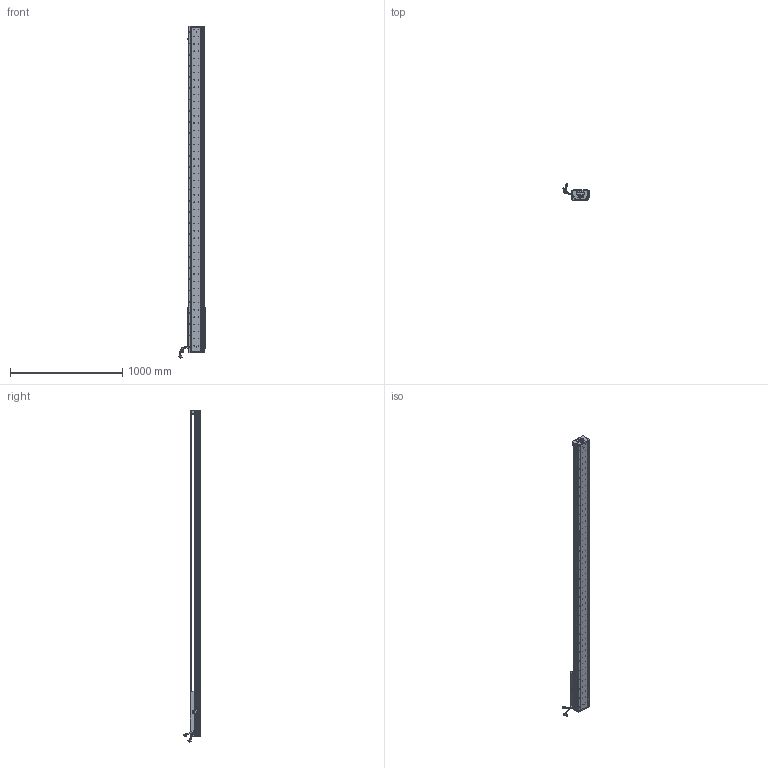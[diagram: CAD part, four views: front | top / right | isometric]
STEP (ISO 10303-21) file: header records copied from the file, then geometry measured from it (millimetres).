
FILE_DESCRIPTION (( 'STEP AP203' ), '1' );
FILE_NAME ('Z5-RY140D-1-L500-B-K.SLDASM_2450.step', '2021-05-17T08:40:12', ( '盈信电脑' ), ( '东莞市道滘镇水果街19号' ), 'SwSTEP 2.0', 'SolidWorks 2016', '' );
FILE_SCHEMA (( 'CONFIG_CONTROL_DESIGN' ));
Length unit declared in the file: millimetre
Products named in the file (36): 覜茼ん672; 140-Z-臏賑輸盄裔(21遴); LABEL; 榋妏寠巭燃_暯_M2_2; HOLDER0; 140蚥薯蝶輸; HARNESS-Part-1; 詩湍奻揤裔; 140雄赽晤鎢ん堤盄; HARNESS; PSLH080_PSLF2; SCREW-M1.6-2; Z5-RY140-L500詩湍100mm遵_2450; Z5-RY140圉猾敕臏賑輸(21遴); PBU_SHEET; COVER-Part-1; SCREW-M1.6; SCALE-Part-1; Z5-RY140-L500直线电机模组底座_2450; SHIELDPLATE; Z-RY140感应器672光电感应片; HARNESS-Part-2; 080黍杅芛假蚾釱21遴; Z5-RY140D-1-L500-B-K.SLDASM_2450; SCREW-M1.7; SCREW-M1.6-3; SCREW-M1.7-1; LABEL-Part-1; SEAL; Z-140詩湍傷裔啣; SCREW-M1.6-1; 詩湍狟揤裔; COVER; SEAL-Part-1; SCALE; SCALE-Part-2
Assembly tree (41 placements, depth 4):
  Z5-RY140D-1-L500-B-K.SLDASM_2450
    Z5-RY140-L500直线电机模组底座_2450
    Z-RY140感应器672光电感应片
    Z5-RY140圉猾敕臏賑輸(21遴)
    覜茼ん672  x3
    Z5-RY140-L500詩湍100mm遵_2450
    PSLH080_PSLF2
      SCALE
        SCALE-Part-1
        SCALE-Part-2
      HARNESS
        HARNESS-Part-1
        HARNESS-Part-2
      LABEL
        LABEL-Part-1
      COVER
        COVER-Part-1
      SEAL
        SEAL-Part-1
      榋妏寠巭燃_暯_M2_2
      SHIELDPLATE
      SCREW-M1.7
      SCREW-M1.7-1
      PBU_SHEET
      SCREW-M1.6
      SCREW-M1.6-1
      SCREW-M1.6-2
      SCREW-M1.6-3
      HOLDER0
    080黍杅芛假蚾釱21遴
    140-Z-臏賑輸盄裔(21遴)
    Z-140詩湍傷裔啣  x2
    詩湍狟揤裔  x2
    詩湍奻揤裔  x2
    140蚥薯蝶輸  x2
    140雄赽晤鎢ん堤盄
Bounding box: 239.79 x 143.88 x 2955.87 mm (x, y, z)
Volume: 9755265.2 mm3; surface area: 2504680.2 mm2
Topology: 36 solids, 36 shells, 4400 faces, 12012 edges, 7615 vertices
Faces by surface type: cylinder 2434, plane 1422, cone 422, torus 69, bspline 53
Entity records: 141052 total; most frequent: CARTESIAN_POINT 40155, ORIENTED_EDGE 20904, DIRECTION 19276, EDGE_CURVE 10452, AXIS2_PLACEMENT_3D 7200, VERTEX_POINT 6783, LINE 4876, VECTOR 4876
